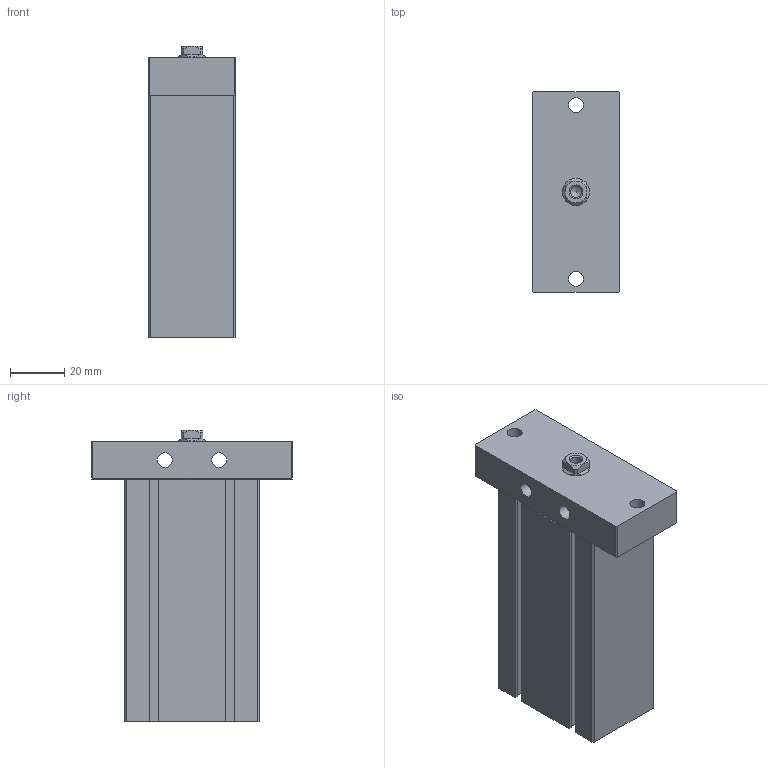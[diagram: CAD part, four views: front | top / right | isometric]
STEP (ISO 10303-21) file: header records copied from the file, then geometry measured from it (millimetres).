
FILE_DESCRIPTION((''),'2;1');
FILE_NAME('J:\3D電子目錄\氣缸\ND\ND\ND25-F\ND25x60-F.stp','2008-03-12T14:16:01',('66-2f-008'),(''),'Autodesk Inventor 11','Autodesk Inventor 11','');
FILE_SCHEMA(('AUTOMOTIVE_DESIGN { 1 0 10303 214 1 1 1 1 }'));
Length unit declared in the file: millimetre
Products named in the file (1): ND25-F
Bounding box: 32 x 74 x 107.5 mm (x, y, z)
Volume: 163253.4 mm3; surface area: 30243.9 mm2
Topology: 2 solids, 2 shells, 119 faces, 289 edges, 183 vertices
Faces by surface type: plane 79, bspline 16, cone 12, cylinder 11, torus 1
Full cylindrical faces by diameter (mm): 1.5 x2, 5.5 x2, 17 x1, 28 x1, 29.4 x1
Entity records: 3424 total; most frequent: CARTESIAN_POINT 784, DIRECTION 516, ORIENTED_EDGE 510, EDGE_CURVE 255, VECTOR 186, LINE 186, VERTEX_POINT 177, AXIS2_PLACEMENT_3D 165
